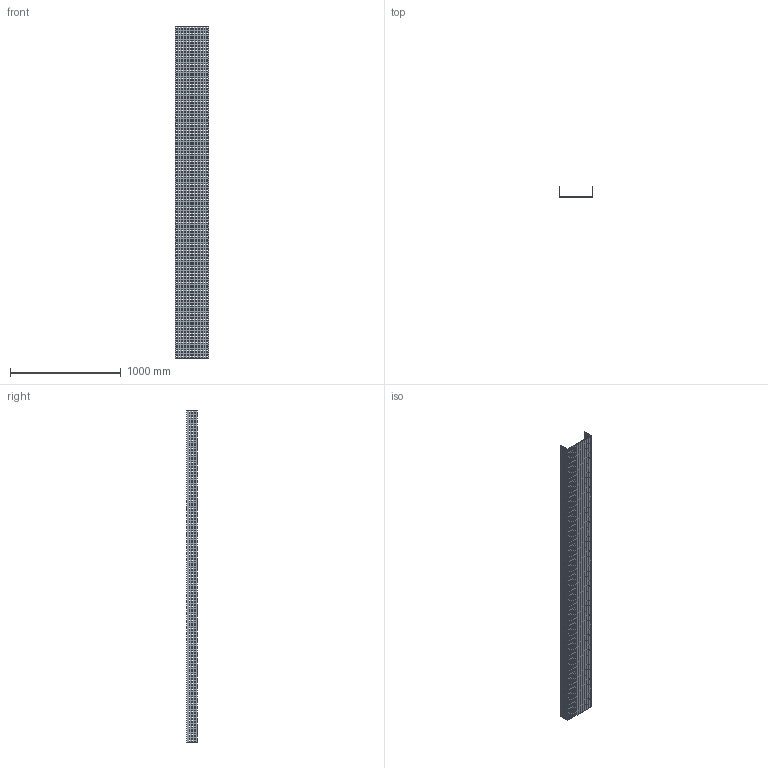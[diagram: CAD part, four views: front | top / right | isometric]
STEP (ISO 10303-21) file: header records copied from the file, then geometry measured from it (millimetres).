
FILE_DESCRIPTION (( 'STEP AP214' ), '1' );
FILE_NAME ('01B3I300.step', '2025-02-21T10:24:09', ( '' ), ( '' ), 'SwSTEP 2.0', 'SolidWorks 2023', '' );
FILE_SCHEMA (( 'AUTOMOTIVE_DESIGN' ));
Products named in the file (1): 01B3I300
Bounding box: 304 x 92.5 x 3000 mm (x, y, z)
Volume: 4267200 mm3; surface area: 2753078 mm2
Topology: 1 solids, 1 shells, 5194 faces, 15576 edges, 10384 vertices
Faces by surface type: plane 5194
Entity records: 176567 total; most frequent: CARTESIAN_POINT 31155, ORIENTED_EDGE 31152, DIRECTION 25966, EDGE_CURVE 15576, VECTOR 15576, LINE 15576, VERTEX_POINT 10384, EDGE_LOOP 7786
